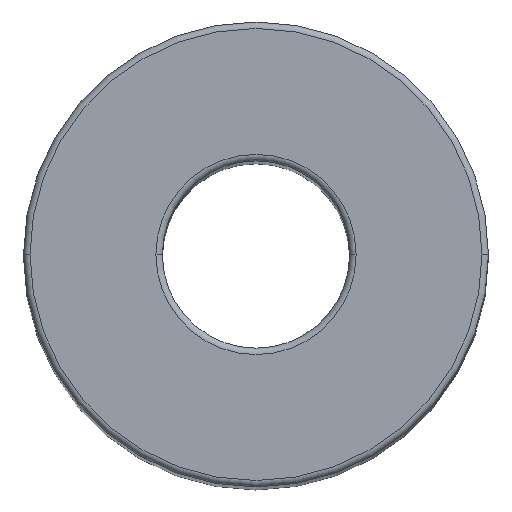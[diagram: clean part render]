
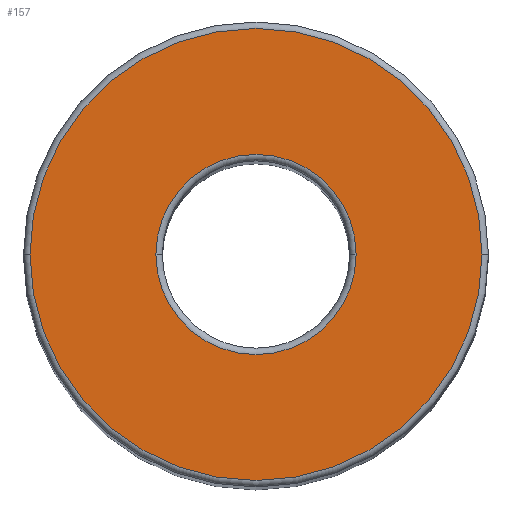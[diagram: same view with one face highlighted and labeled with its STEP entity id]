
A CAD part, top view. The second image highlights one B-rep face of the part: STEP entity #157.
In plain terms, the highlighted planar face has unit normal (0, 0, 1).
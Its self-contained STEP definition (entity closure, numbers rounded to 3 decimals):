
#3 = AXIS2_PLACEMENT_3D ( 'NONE', #150, #154, #421 ) ;
#11 = AXIS2_PLACEMENT_3D ( 'NONE', #167, #202, #272 ) ;
#13 = FACE_OUTER_BOUND ( 'NONE', #210, .T. ) ;
#17 = CARTESIAN_POINT ( 'NONE',  ( 7.75, 0., 135. ) ) ;
#46 = EDGE_CURVE ( 'NONE', #347, #116, #66, .T. ) ;
#54 = DIRECTION ( 'NONE',  ( 0., 0., -1. ) ) ;
#60 = AXIS2_PLACEMENT_3D ( 'NONE', #255, #185, #383 ) ;
#66 = CIRCLE ( 'NONE', #11, 17.5 ) ;
#109 = FACE_BOUND ( 'NONE', #174, .T. ) ;
#116 = VERTEX_POINT ( 'NONE', #240 ) ;
#122 = CARTESIAN_POINT ( 'NONE',  ( -17.5, 0., 135. ) ) ;
#143 = DIRECTION ( 'NONE',  ( 0., 0., 1. ) ) ;
#150 = CARTESIAN_POINT ( 'NONE',  ( 0., 0., 135. ) ) ;
#154 = DIRECTION ( 'NONE',  ( 0., 0., -1. ) ) ;
#157 = ADVANCED_FACE ( 'NONE', ( #109, #13 ), #168, .T. ) ;
#162 = ORIENTED_EDGE ( 'NONE', *, *, #46, .T. ) ;
#167 = CARTESIAN_POINT ( 'NONE',  ( 0., 0., 135. ) ) ;
#168 = PLANE ( 'NONE',  #254 ) ;
#169 = CIRCLE ( 'NONE', #363, 7.75 ) ;
#174 = EDGE_LOOP ( 'NONE', ( #181, #402 ) ) ;
#181 = ORIENTED_EDGE ( 'NONE', *, *, #203, .T. ) ;
#185 = DIRECTION ( 'NONE',  ( 0., 0., 1. ) ) ;
#196 = VERTEX_POINT ( 'NONE', #17 ) ;
#202 = DIRECTION ( 'NONE',  ( 0., 0., 1. ) ) ;
#203 = EDGE_CURVE ( 'NONE', #196, #249, #169, .T. ) ;
#210 = EDGE_LOOP ( 'NONE', ( #243, #162 ) ) ;
#240 = CARTESIAN_POINT ( 'NONE',  ( 17.5, 0., 135. ) ) ;
#243 = ORIENTED_EDGE ( 'NONE', *, *, #303, .T. ) ;
#249 = VERTEX_POINT ( 'NONE', #286 ) ;
#254 = AXIS2_PLACEMENT_3D ( 'NONE', #337, #143, #370 ) ;
#255 = CARTESIAN_POINT ( 'NONE',  ( 0., 0., 135. ) ) ;
#272 = DIRECTION ( 'NONE',  ( 1., 0., 0. ) ) ;
#276 = CARTESIAN_POINT ( 'NONE',  ( 0., 0., 135. ) ) ;
#279 = DIRECTION ( 'NONE',  ( 1., 0., 0. ) ) ;
#286 = CARTESIAN_POINT ( 'NONE',  ( -7.75, 0., 135. ) ) ;
#303 = EDGE_CURVE ( 'NONE', #116, #347, #405, .T. ) ;
#337 = CARTESIAN_POINT ( 'NONE',  ( 0., 0., 135. ) ) ;
#345 = EDGE_CURVE ( 'NONE', #249, #196, #367, .T. ) ;
#347 = VERTEX_POINT ( 'NONE', #122 ) ;
#363 = AXIS2_PLACEMENT_3D ( 'NONE', #276, #54, #279 ) ;
#367 = CIRCLE ( 'NONE', #3, 7.75 ) ;
#370 = DIRECTION ( 'NONE',  ( 1., 0., 0. ) ) ;
#383 = DIRECTION ( 'NONE',  ( 1., 0., 0. ) ) ;
#402 = ORIENTED_EDGE ( 'NONE', *, *, #345, .T. ) ;
#405 = CIRCLE ( 'NONE', #60, 17.5 ) ;
#421 = DIRECTION ( 'NONE',  ( 1., 0., 0. ) ) ;
